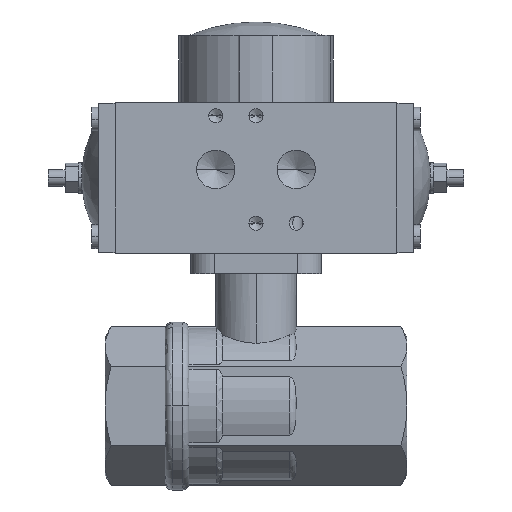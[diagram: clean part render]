
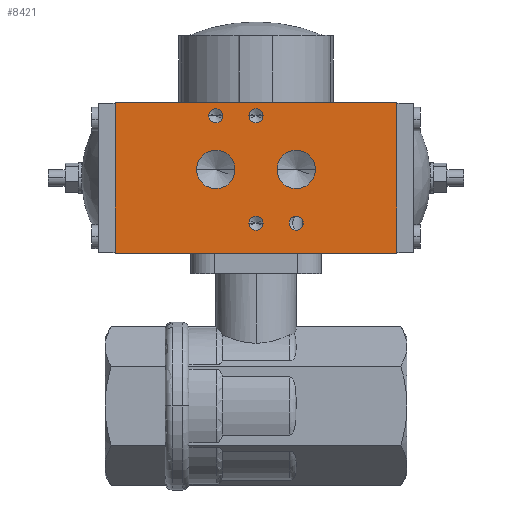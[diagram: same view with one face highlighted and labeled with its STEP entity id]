
A CAD part, top view. The second image highlights one B-rep face of the part: STEP entity #8421.
In plain terms, the highlighted planar face has unit normal (0, 0, 1) as drawn and (1, 0, 0) by its records, which use the part's own axes.
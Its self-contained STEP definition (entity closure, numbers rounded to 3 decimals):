
#660 = CIRCLE ( 'NONE', #664, 2.1 ) ;
#664 = AXIS2_PLACEMENT_3D ( 'NONE', #10570, #10571, #10572 ) ;
#668 = CIRCLE ( 'NONE', #672, 2.1 ) ;
#672 = AXIS2_PLACEMENT_3D ( 'NONE', #10586, #10587, #10588 ) ;
#677 = CIRCLE ( 'NONE', #680, 2.1 ) ;
#680 = AXIS2_PLACEMENT_3D ( 'NONE', #10615, #10616, #10617 ) ;
#684 = CIRCLE ( 'NONE', #688, 2.1 ) ;
#688 = AXIS2_PLACEMENT_3D ( 'NONE', #10633, #10634, #10635 ) ;
#692 = CIRCLE ( 'NONE', #696, 5.722 ) ;
#696 = AXIS2_PLACEMENT_3D ( 'NONE', #10651, #10652, #10653 ) ;
#700 = CIRCLE ( 'NONE', #704, 5.722 ) ;
#704 = AXIS2_PLACEMENT_3D ( 'NONE', #10669, #10670, #10671 ) ;
#911 = VECTOR ( 'NONE', #4075, 1000. ) ;
#920 = VECTOR ( 'NONE', #4098, 1000. ) ;
#935 = VECTOR ( 'NONE', #4132, 1000. ) ;
#937 = CIRCLE ( 'NONE', #939, 2.1 ) ;
#938 = CIRCLE ( 'NONE', #941, 2.1 ) ;
#939 = AXIS2_PLACEMENT_3D ( 'NONE', #4133, #4134, #4135 ) ;
#940 = CIRCLE ( 'NONE', #943, 2.1 ) ;
#941 = AXIS2_PLACEMENT_3D ( 'NONE', #4136, #4137, #4138 ) ;
#942 = CIRCLE ( 'NONE', #945, 2.1 ) ;
#943 = AXIS2_PLACEMENT_3D ( 'NONE', #4139, #4140, #4141 ) ;
#944 = CIRCLE ( 'NONE', #947, 5.722 ) ;
#945 = AXIS2_PLACEMENT_3D ( 'NONE', #4142, #4143, #4144 ) ;
#946 = CIRCLE ( 'NONE', #949, 5.722 ) ;
#947 = AXIS2_PLACEMENT_3D ( 'NONE', #4147, #4148, #4149 ) ;
#948 = VECTOR ( 'NONE', #4153, 1000. ) ;
#949 = AXIS2_PLACEMENT_3D ( 'NONE', #4150, #4151, #4152 ) ;
#2564 = CARTESIAN_POINT ( 'NONE',  ( 28.5, -22.5, -42. ) ) ;
#2570 = CARTESIAN_POINT ( 'NONE',  ( 28.5, 22.5, -42. ) ) ;
#2722 = CARTESIAN_POINT ( 'NONE',  ( 28.5, 18.5, 14.1 ) ) ;
#2723 = CARTESIAN_POINT ( 'NONE',  ( 28.5, 18.5, 9.9 ) ) ;
#2727 = CARTESIAN_POINT ( 'NONE',  ( 28.5, -13.5, -9.9 ) ) ;
#2728 = CARTESIAN_POINT ( 'NONE',  ( 28.5, -13.5, -14.1 ) ) ;
#2733 = CARTESIAN_POINT ( 'NONE',  ( 28.5, -13.5, 2.1 ) ) ;
#2734 = CARTESIAN_POINT ( 'NONE',  ( 28.5, -13.5, -2.1 ) ) ;
#2738 = CARTESIAN_POINT ( 'NONE',  ( 28.5, 18.5, 2.1 ) ) ;
#2739 = CARTESIAN_POINT ( 'NONE',  ( 28.5, 18.5, -2.1 ) ) ;
#2743 = CARTESIAN_POINT ( 'NONE',  ( 28.5, 2.5, -6.277 ) ) ;
#2744 = CARTESIAN_POINT ( 'NONE',  ( 28.5, 2.5, -17.722 ) ) ;
#2745 = CARTESIAN_POINT ( 'NONE',  ( 28.5, 2.5, 6.277 ) ) ;
#2746 = CARTESIAN_POINT ( 'NONE',  ( 28.5, 2.5, 17.722 ) ) ;
#3376 = VERTEX_POINT ( 'NONE', #8185 ) ;
#3527 = ORIENTED_EDGE ( 'NONE', *, *, #10936, .T. ) ;
#3528 = ORIENTED_EDGE ( 'NONE', *, *, #10963, .F. ) ;
#3529 = ORIENTED_EDGE ( 'NONE', *, *, #10944, .F. ) ;
#3530 = ORIENTED_EDGE ( 'NONE', *, *, #10956, .T. ) ;
#3531 = ORIENTED_EDGE ( 'NONE', *, *, #8731, .F. ) ;
#4063 = LINE ( 'NONE', #4073, #911 ) ;
#4073 = CARTESIAN_POINT ( 'NONE',  ( 28.5, -22.5, -42. ) ) ;
#4075 = DIRECTION ( 'NONE',  ( 0., 1., 0. ) ) ;
#4096 = LINE ( 'NONE', #4097, #920 ) ;
#4097 = CARTESIAN_POINT ( 'NONE',  ( 28.5, -22.5, 42. ) ) ;
#4098 = DIRECTION ( 'NONE',  ( 0., 1., 0. ) ) ;
#4124 = LINE ( 'NONE', #4125, #935 ) ;
#4125 = CARTESIAN_POINT ( 'NONE',  ( 28.5, 22.5, -42. ) ) ;
#4132 = DIRECTION ( 'NONE',  ( 0., 0., 1. ) ) ;
#4133 = CARTESIAN_POINT ( 'NONE',  ( 28.5, 18.5, 12. ) ) ;
#4134 = DIRECTION ( 'NONE',  ( 1., 0., 0. ) ) ;
#4135 = DIRECTION ( 'NONE',  ( 0., 0., -1. ) ) ;
#4136 = CARTESIAN_POINT ( 'NONE',  ( 28.5, -13.5, -12. ) ) ;
#4137 = DIRECTION ( 'NONE',  ( 1., 0., 0. ) ) ;
#4138 = DIRECTION ( 'NONE',  ( 0., 0., -1. ) ) ;
#4139 = CARTESIAN_POINT ( 'NONE',  ( 28.5, -13.5, 0. ) ) ;
#4140 = DIRECTION ( 'NONE',  ( 1., 0., 0. ) ) ;
#4141 = DIRECTION ( 'NONE',  ( 0., 0., -1. ) ) ;
#4142 = CARTESIAN_POINT ( 'NONE',  ( 28.5, 18.5, 0. ) ) ;
#4143 = DIRECTION ( 'NONE',  ( 1., 0., 0. ) ) ;
#4144 = DIRECTION ( 'NONE',  ( 0., 0., -1. ) ) ;
#4145 = LINE ( 'NONE', #4146, #948 ) ;
#4146 = CARTESIAN_POINT ( 'NONE',  ( 28.5, -22.5, -42. ) ) ;
#4147 = CARTESIAN_POINT ( 'NONE',  ( 28.5, 2.5, -12. ) ) ;
#4148 = DIRECTION ( 'NONE',  ( 1., 0., 0. ) ) ;
#4149 = DIRECTION ( 'NONE',  ( 0., 0., -1. ) ) ;
#4150 = CARTESIAN_POINT ( 'NONE',  ( 28.5, 2.5, 12. ) ) ;
#4151 = DIRECTION ( 'NONE',  ( 1., 0., 0. ) ) ;
#4152 = DIRECTION ( 'NONE',  ( 0., 0., -1. ) ) ;
#4153 = DIRECTION ( 'NONE',  ( 0., 0., 1. ) ) ;
#4935 = CARTESIAN_POINT ( 'NONE',  ( 28.5, -22.5, -42. ) ) ;
#4939 = FACE_BOUND ( 'NONE', #9414, .T. ) ;
#4942 = FACE_BOUND ( 'NONE', #9435, .T. ) ;
#4943 = FACE_BOUND ( 'NONE', #9449, .T. ) ;
#4944 = FACE_BOUND ( 'NONE', #9384, .T. ) ;
#4945 = FACE_OUTER_BOUND ( 'NONE', #9447, .T. ) ;
#4946 = FACE_BOUND ( 'NONE', #9444, .T. ) ;
#4947 = PLANE ( 'NONE',  #11891 ) ;
#4948 = FACE_BOUND ( 'NONE', #9388, .T. ) ;
#4951 = DIRECTION ( 'NONE',  ( 1., 0., 0. ) ) ;
#4952 = DIRECTION ( 'NONE',  ( 0., 0., -1. ) ) ;
#7117 = CARTESIAN_POINT ( 'NONE',  ( 28.5, -22.5, 42. ) ) ;
#7703 = VERTEX_POINT ( 'NONE', #7117 ) ;
#7706 = ORIENTED_EDGE ( 'NONE', *, *, #10962, .F. ) ;
#7707 = ORIENTED_EDGE ( 'NONE', *, *, #8725, .F. ) ;
#7708 = ORIENTED_EDGE ( 'NONE', *, *, #10961, .F. ) ;
#7709 = ORIENTED_EDGE ( 'NONE', *, *, #8719, .F. ) ;
#7710 = ORIENTED_EDGE ( 'NONE', *, *, #10960, .F. ) ;
#7711 = ORIENTED_EDGE ( 'NONE', *, *, #8713, .F. ) ;
#7712 = ORIENTED_EDGE ( 'NONE', *, *, #10959, .F. ) ;
#7713 = ORIENTED_EDGE ( 'NONE', *, *, #8707, .F. ) ;
#7714 = ORIENTED_EDGE ( 'NONE', *, *, #10958, .F. ) ;
#7715 = ORIENTED_EDGE ( 'NONE', *, *, #8701, .F. ) ;
#7716 = ORIENTED_EDGE ( 'NONE', *, *, #10957, .F. ) ;
#8185 = CARTESIAN_POINT ( 'NONE',  ( 28.5, 22.5, 42. ) ) ;
#8421 = ADVANCED_FACE ( 'NONE', ( #4943, #4939, #4946, #4948, #4942, #4944, #4945 ), #4947, .T. ) ;
#8701 = EDGE_CURVE ( 'NONE', #12885, #12886, #660, .T. ) ;
#8707 = EDGE_CURVE ( 'NONE', #12891, #12892, #668, .T. ) ;
#8713 = EDGE_CURVE ( 'NONE', #12897, #12898, #677, .T. ) ;
#8719 = EDGE_CURVE ( 'NONE', #12902, #12903, #684, .T. ) ;
#8725 = EDGE_CURVE ( 'NONE', #12907, #12908, #692, .T. ) ;
#8731 = EDGE_CURVE ( 'NONE', #12910, #12909, #700, .T. ) ;
#9384 = EDGE_LOOP ( 'NONE', ( #7706, #3531 ) ) ;
#9388 = EDGE_LOOP ( 'NONE', ( #7710, #7709 ) ) ;
#9414 = EDGE_LOOP ( 'NONE', ( #7714, #7713 ) ) ;
#9435 = EDGE_LOOP ( 'NONE', ( #7708, #7707 ) ) ;
#9444 = EDGE_LOOP ( 'NONE', ( #7712, #7711 ) ) ;
#9447 = EDGE_LOOP ( 'NONE', ( #3530, #3529, #3528, #3527 ) ) ;
#9449 = EDGE_LOOP ( 'NONE', ( #7716, #7715 ) ) ;
#10570 = CARTESIAN_POINT ( 'NONE',  ( 28.5, 18.5, 12. ) ) ;
#10571 = DIRECTION ( 'NONE',  ( 1., 0., 0. ) ) ;
#10572 = DIRECTION ( 'NONE',  ( 0., 0., -1. ) ) ;
#10586 = CARTESIAN_POINT ( 'NONE',  ( 28.5, -13.5, -12. ) ) ;
#10587 = DIRECTION ( 'NONE',  ( 1., 0., 0. ) ) ;
#10588 = DIRECTION ( 'NONE',  ( 0., 0., -1. ) ) ;
#10615 = CARTESIAN_POINT ( 'NONE',  ( 28.5, -13.5, 0. ) ) ;
#10616 = DIRECTION ( 'NONE',  ( 1., 0., 0. ) ) ;
#10617 = DIRECTION ( 'NONE',  ( 0., 0., -1. ) ) ;
#10633 = CARTESIAN_POINT ( 'NONE',  ( 28.5, 18.5, 0. ) ) ;
#10634 = DIRECTION ( 'NONE',  ( 1., 0., 0. ) ) ;
#10635 = DIRECTION ( 'NONE',  ( 0., 0., -1. ) ) ;
#10651 = CARTESIAN_POINT ( 'NONE',  ( 28.5, 2.5, -12. ) ) ;
#10652 = DIRECTION ( 'NONE',  ( 1., 0., 0. ) ) ;
#10653 = DIRECTION ( 'NONE',  ( 0., 0., -1. ) ) ;
#10669 = CARTESIAN_POINT ( 'NONE',  ( 28.5, 2.5, 12. ) ) ;
#10670 = DIRECTION ( 'NONE',  ( 1., 0., 0. ) ) ;
#10671 = DIRECTION ( 'NONE',  ( 0., 0., -1. ) ) ;
#10936 = EDGE_CURVE ( 'NONE', #12731, #12730, #4063, .T. ) ;
#10944 = EDGE_CURVE ( 'NONE', #7703, #3376, #4096, .T. ) ;
#10956 = EDGE_CURVE ( 'NONE', #12730, #3376, #4124, .T. ) ;
#10957 = EDGE_CURVE ( 'NONE', #12886, #12885, #937, .T. ) ;
#10958 = EDGE_CURVE ( 'NONE', #12892, #12891, #938, .T. ) ;
#10959 = EDGE_CURVE ( 'NONE', #12898, #12897, #940, .T. ) ;
#10960 = EDGE_CURVE ( 'NONE', #12903, #12902, #942, .T. ) ;
#10961 = EDGE_CURVE ( 'NONE', #12908, #12907, #944, .T. ) ;
#10962 = EDGE_CURVE ( 'NONE', #12909, #12910, #946, .T. ) ;
#10963 = EDGE_CURVE ( 'NONE', #12731, #7703, #4145, .T. ) ;
#11891 = AXIS2_PLACEMENT_3D ( 'NONE', #4935, #4951, #4952 ) ;
#12730 = VERTEX_POINT ( 'NONE', #2570 ) ;
#12731 = VERTEX_POINT ( 'NONE', #2564 ) ;
#12885 = VERTEX_POINT ( 'NONE', #2722 ) ;
#12886 = VERTEX_POINT ( 'NONE', #2723 ) ;
#12891 = VERTEX_POINT ( 'NONE', #2727 ) ;
#12892 = VERTEX_POINT ( 'NONE', #2728 ) ;
#12897 = VERTEX_POINT ( 'NONE', #2733 ) ;
#12898 = VERTEX_POINT ( 'NONE', #2734 ) ;
#12902 = VERTEX_POINT ( 'NONE', #2738 ) ;
#12903 = VERTEX_POINT ( 'NONE', #2739 ) ;
#12907 = VERTEX_POINT ( 'NONE', #2743 ) ;
#12908 = VERTEX_POINT ( 'NONE', #2744 ) ;
#12909 = VERTEX_POINT ( 'NONE', #2745 ) ;
#12910 = VERTEX_POINT ( 'NONE', #2746 ) ;
